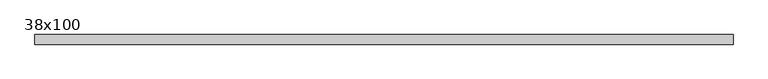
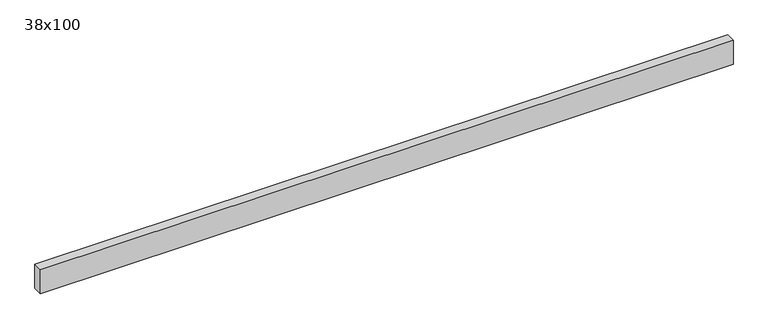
"""IFC4 building model written with IfcOpenShell, lengths in millimetres: beam geometry, Poutre - Bois de construction de dimensions courantes : 38x100."""

import ifcopenshell
import ifcopenshell.guid

model = None  # the IFC model being written
_history = None  # IfcOwnerHistory: only IFC2X3 demands one
_inside = {}  # id of a spatial element -> (the spatial element, [elements in it])
_under = {}  # id of a project, library or spatial element -> (it, [spatial elements below it])
_declared = {}  # id of a project -> (the project, [libraries it declares])
_typed = {}  # id of a type object -> (the type object, [elements of that type])
_made_of = {}  # id of a material, layer set ... -> (it, [elements and type objects made of it])


def new_model(schema):
    """Start an empty IFC model of exactly this schema.

    Asked for "IFC4X3", IfcOpenShell would pick the latest addendum, in which some entities
    have other attributes; the version numbers below select the first issue.
    IFC2X3 requires an IfcOwnerHistory on every rooted entity: one is made here for all.
    """
    global model, _history
    if schema == "IFC4X3":
        model = ifcopenshell.file(schema_version=(4, 3, 0, 0))
    else:
        model = ifcopenshell.file(schema=schema)
    _inside.clear()
    _under.clear()
    _declared.clear()
    _typed.clear()
    _made_of.clear()
    _history = None
    if model.schema == "IFC2X3":
        org = make("IfcOrganization", Name="unknown")
        user = make(
            "IfcPersonAndOrganization",
            ThePerson=make("IfcPerson", FamilyName="unknown"),
            TheOrganization=org,
        )
        app = make(
            "IfcApplication",
            ApplicationDeveloper=org,
            Version="unknown",
            ApplicationFullName="unknown",
            ApplicationIdentifier="unknown",
        )
        _history = make(
            "IfcOwnerHistory",
            OwningUser=user,
            OwningApplication=app,
            ChangeAction="ADDED",
            CreationDate=0,
        )
    return model


def make(cls, **values):
    """One entity of the class cls with the attributes given. An attribute that is None is left unset."""
    return model.create_entity(
        cls, **{name: value for name, value in values.items() if value is not None}
    )


def rooted(cls, **values):
    """An entity with a GlobalId (a new one), such as an element, a storey or a relation."""
    return make(cls, GlobalId=ifcopenshell.guid.new(), OwnerHistory=_history, **values)


def si_unit(unit_type, name, prefix=None):
    """IfcSIUnit, for example si_unit("LENGTHUNIT", "METRE", prefix="MILLI")."""
    return make("IfcSIUnit", UnitType=unit_type, Prefix=prefix, Name=name)


def assignment(units):
    """IfcUnitAssignment: the units of a project."""
    return None if units is None else make("IfcUnitAssignment", Units=units)


def point(xyz):
    """IfcCartesianPoint."""
    return None if xyz is None else make("IfcCartesianPoint", Coordinates=xyz)


def direction(xyz):
    """IfcDirection."""
    return None if xyz is None else make("IfcDirection", DirectionRatios=xyz)


def frame(location, z_axis=None, x_axis=None):
    """IfcAxis2Placement3D, a coordinate frame: its origin and axes. An axis left out is left unset."""
    return make(
        "IfcAxis2Placement3D",
        Location=point(location),
        Axis=direction(z_axis),
        RefDirection=direction(x_axis),
    )


def origin():
    """The frame at (0, 0, 0) with its axes left unset."""
    return frame((0.0, 0.0, 0.0))


def place(relative_to, where):
    """IfcLocalPlacement: puts the frame where relative to a parent placement (None: the world)."""
    return make(
        "IfcLocalPlacement", PlacementRelTo=relative_to, RelativePlacement=where
    )


def context(
    kind, dimensions, precision=None, world=None, true_north=None, identifier=None
):
    """IfcGeometricRepresentationContext, for example the 3D "Model" context."""
    return make(
        "IfcGeometricRepresentationContext",
        ContextIdentifier=identifier,
        ContextType=kind,
        CoordinateSpaceDimension=dimensions,
        Precision=precision,
        WorldCoordinateSystem=world,
        TrueNorth=true_north,
    )


def project(units=None, contexts=None):
    """IfcProject with its units and contexts."""
    return rooted(
        "IfcProject",
        Name="project",
        RepresentationContexts=contexts,
        UnitsInContext=assignment(units),
    )


def spatial(cls, under=None, at=None, **own):
    """A site, building, storey or space (cls), placed at a placement, below another one or the project."""
    s = rooted(cls, ObjectPlacement=at, **own)
    if under is not None:
        _under.setdefault(under.id(), (under, []))[1].append(s)
    return s


def polyline(points):
    """IfcPolyline through the points."""
    return make("IfcPolyline", Points=[point(p) for p in points])


def outline(outer, holes=None, kind="AREA"):
    """IfcArbitraryClosedProfileDef: a profile drawn as a closed curve; with holes, ...WithVoids."""
    if holes is None:
        return make("IfcArbitraryClosedProfileDef", ProfileType=kind, OuterCurve=outer)
    return make(
        "IfcArbitraryProfileDefWithVoids",
        ProfileType=kind,
        OuterCurve=outer,
        InnerCurves=holes,
    )


def extrude(swept, where, along, depth):
    """IfcExtrudedAreaSolid: the profile swept, set in the frame where, extruded along a direction by depth."""
    return make(
        "IfcExtrudedAreaSolid",
        SweptArea=swept,
        Position=where,
        ExtrudedDirection=direction(along),
        Depth=depth,
    )


def shape(context_of_items, identifier, shape_type, items):
    """IfcShapeRepresentation: the items that make up one representation, for example the "Body"."""
    return make(
        "IfcShapeRepresentation",
        ContextOfItems=context_of_items,
        RepresentationIdentifier=identifier,
        RepresentationType=shape_type,
        Items=items,
    )


def source(mapping_origin, context_of_items, identifier, shape_type, items):
    """IfcRepresentationMap: a shape defined once, which mapped items show again and again."""
    return make(
        "IfcRepresentationMap",
        MappingOrigin=mapping_origin,
        MappedRepresentation=shape(context_of_items, identifier, shape_type, items),
    )


def transform(
    local_origin,
    x_axis=None,
    y_axis=None,
    z_axis=None,
    scale=None,
    scale2=None,
    scale3=None,
    uniform=True,
):
    """IfcCartesianTransformationOperator3D, or its non-uniform kind. x_axis, y_axis, z_axis: its Axis1, 2, 3."""
    if uniform:
        return make(
            "IfcCartesianTransformationOperator3D",
            Axis1=direction(x_axis),
            Axis2=direction(y_axis),
            LocalOrigin=point(local_origin),
            Scale=scale,
            Axis3=direction(z_axis),
        )
    return make(
        "IfcCartesianTransformationOperator3DnonUniform",
        Axis1=direction(x_axis),
        Axis2=direction(y_axis),
        LocalOrigin=point(local_origin),
        Scale=scale,
        Axis3=direction(z_axis),
        Scale2=scale2,
        Scale3=scale3,
    )


def mapped(mapping_source, mapping_target):
    """IfcMappedItem: shows the shape of a source again, moved by a transform."""
    return make(
        "IfcMappedItem", MappingSource=mapping_source, MappingTarget=mapping_target
    )


def made_of(thing, what):
    """Note that an element or type object is made of a material, layer set ...; save() writes the relation."""
    if what is not None:
        _made_of.setdefault(what.id(), (what, []))[1].append(thing)
    return thing


def element(
    cls,
    number,
    at=None,
    inside=None,
    cuts=None,
    type_object=None,
    material=None,
    context=None,
    identifier="Body",
    shape_type=None,
    held_by="IfcProductDefinitionShape",
    body=None,
    shapes=None,
    **own,
):
    """One element of the class cls, such as IfcWall. Its Tag is "e" and its number.

    at: its placement. inside: the storey or other place that contains it. cuts: it is an
    opening in that element (IfcRelVoidsElement). A single representation is given by context,
    identifier, shape_type and body (its items); several are given by shapes. held_by: the class
    of the entity that holds the representations. save() writes the other relations.
    """
    e = rooted(cls, Tag="e%d" % number, ObjectPlacement=at, **own)
    if body is not None:
        shapes = [shape(context, identifier, shape_type, body)]
    if shapes is not None:
        e.Representation = make(held_by, Representations=shapes)
    if inside is not None:
        _inside.setdefault(inside.id(), (inside, []))[1].append(e)
    if cuts is not None:
        rooted(
            "IfcRelVoidsElement", RelatingBuildingElement=cuts, RelatedOpeningElement=e
        )
    if type_object is not None:
        _typed.setdefault(type_object.id(), (type_object, []))[1].append(e)
    return made_of(e, material)


def aggregate(whole, parts):
    """IfcRelAggregates: a whole, such as a stair, and the parts it consists of."""
    return rooted("IfcRelAggregates", RelatingObject=whole, RelatedObjects=parts)


def save(model, path):
    """Write the relations noted so far, then the file.

    IfcRelAggregates (storeys below a building ...), IfcRelContainedInSpatialStructure (elements
    in a storey), IfcRelDefinesByType, IfcRelAssociatesMaterial and IfcRelDeclares: one each for
    every whole, place, type object, material and project.
    """
    for whole, parts in _under.values():
        aggregate(whole, parts)
    for where, things in _inside.values():
        rooted(
            "IfcRelContainedInSpatialStructure",
            RelatedElements=things,
            RelatingStructure=where,
        )
    for kind, things in _typed.values():
        rooted("IfcRelDefinesByType", RelatedObjects=things, RelatingType=kind)
    for what, things in _made_of.values():
        rooted("IfcRelAssociatesMaterial", RelatedObjects=things, RelatingMaterial=what)
    for by, libraries in _declared.values():
        rooted("IfcRelDeclares", RelatingContext=by, RelatedDefinitions=libraries)
    model.write(path)


def beam_38x100_6b615954(model_context):
    return source(origin(), model_context, "Body", "SweptSolid", [
        extrude(outline(polyline([(1295.5, 19.05), (1295.5, -19.05), (-1455.5, -19.05), (-1455.5, 19.05), (1295.5, 19.05)])), frame((0.0, 0.0, -50.0), z_axis=(0.0, 0.0, 1.0), x_axis=(1.0, 0.0, 0.0)), (0.0, 0.0, 1.0), 100.0),
    ])


if __name__ == "__main__":
    model = new_model("IFC4")
    model_context = context("Model", 3, world=origin())
    ifc_project = project(units=[si_unit("LENGTHUNIT", "METRE", prefix="MILLI")], contexts=[model_context])
    site = spatial("IfcSite", under=ifc_project)
    building = spatial("IfcBuilding", under=site)
    placement = place(None, origin())
    beam_38x100_shape = beam_38x100_6b615954(model_context)
    element("IfcBeam", 1, ObjectType="Poutre - Bois de construction de dimensions courantes : 38x100", at=placement, inside=building, context=model_context, shape_type="MappedRepresentation", body=[
        mapped(beam_38x100_shape, transform((0.0, 0.0, 0.0), x_axis=(1.0, 0.0, 0.0), y_axis=(0.0, 1.0, 0.0), z_axis=(0.0, 0.0, 1.0))),
    ])
    save(model, "model.ifc")
